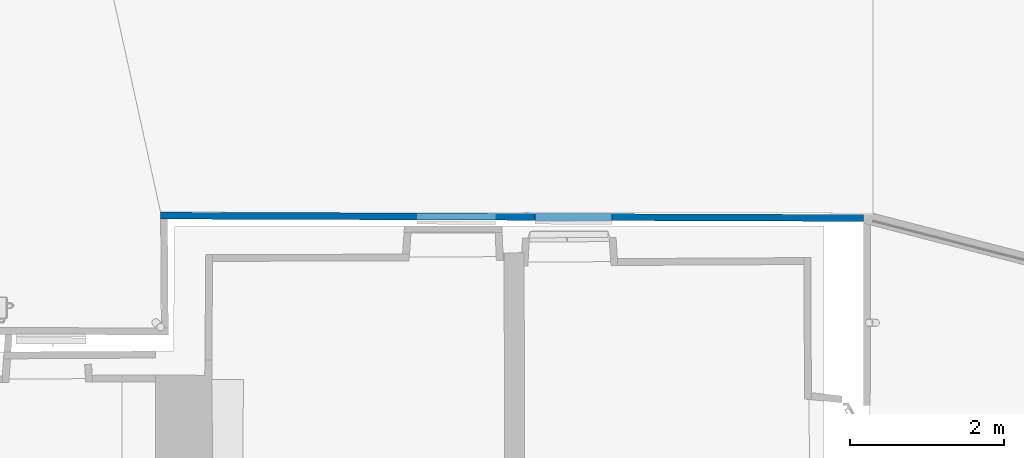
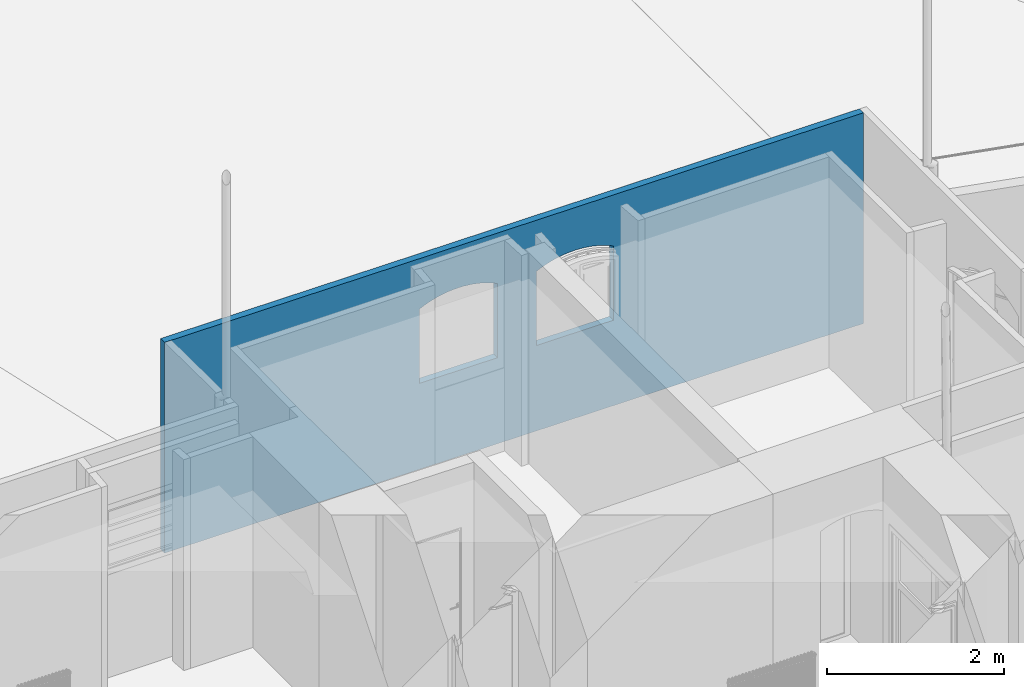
# One storey, part 30 of 133: 1 wall, 2 openings.
"""IFC2X3 building model written with IfcOpenShell, lengths in centimetres."""

from ifc_helpers import new_model, entity, si_unit, converted_unit, point, direction, frame, frame_2d, origin, origin_with_axes, place, context, subcontext, project, spatial, polyline, circle_curve, trimmed, segment, composite_curve, outline, extrude, clip, bounded_halfspace, shape, material, layer, layer_set, layer_usage, type_object, element, save


model = new_model("IFC2X3")

# Units and contexts
model_context = context("Model", 3, precision=0.0001, world=origin(), true_north=direction((0.225632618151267, 0.974212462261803, 0.0)))
body_context = subcontext(model_context, "Body", "Model", "MODEL_VIEW")
footprint_context = subcontext(model_context, "FootPrint", "Model", "MODEL_VIEW")
profile_context = subcontext(model_context, "Profile", "Model", "MODEL_VIEW")
ifc_project = project(units=[si_unit("LENGTHUNIT", "METRE", prefix="CENTI"), si_unit("AREAUNIT", "SQUARE_METRE", prefix="CENTI"), si_unit("VOLUMEUNIT", "CUBIC_METRE", prefix="CENTI"), converted_unit("PLANEANGLEUNIT", "DEGREE", entity("IfcRatioMeasure", 0.0174532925), si_unit("PLANEANGLEUNIT", "RADIAN"), dimensions=[0, 0, 0, 0, 0, 0, 0])], contexts=[model_context])

# Site, building, storey
site_placement = place(None, origin_with_axes())
site = spatial("IfcSite", under=ifc_project, at=site_placement, Name="Default Site", CompositionType="ELEMENT")
building_placement = place(site_placement, origin_with_axes())
building = spatial("IfcBuilding", under=site, at=building_placement, Name="Default Building", CompositionType="ELEMENT")
storey_placement = place(building_placement, frame((0.0, 0.0, -291.400371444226), z_axis=(0.0, 0.0, 1.0), x_axis=(1.0, 0.0, 0.0)))
storey = spatial("IfcBuildingStorey", under=building, at=storey_placement, Name="Rez-de-Jardin", CompositionType="ELEMENT", Elevation=-291.400371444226)

# Wall, openings
ifc_material = material(Name="<aucun>")
ifc_layer = layer(ifc_material, 9.0)
ifc_layer_set = layer_set([ifc_layer], Name="default")
ifc_layer_usage = layer_usage(ifc_layer_set, "AXIS2", "POSITIVE", -4.5)
wall_type = type_object("IfcWallType", Name="default 90", PredefinedType="NOTDEFINED", material=ifc_layer_set)
wall_placement = place(storey_placement, frame((1149.51249450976, 760.690026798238, -1.94511073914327e-11), z_axis=(0.0, 0.0, 1.0), x_axis=(-0.9999942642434, 0.0033869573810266, 0.0)))
wall = element("IfcWallStandardCase", 1, at=wall_placement, inside=storey, type_object=wall_type, material=ifc_layer_usage, Name="Enveloppe 362187", context=body_context, shape_type="Clipping", body=[
    clip(clip(extrude(outline(polyline([(912.322968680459, -4.50000000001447), (912.226282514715, 4.49999999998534), (-0.024867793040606, 4.50000000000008), (-1.77635683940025e-13, -4.50000000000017), (912.322968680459, -4.50000000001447)])), frame((0.0, 0.0, 8.88178419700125e-14), z_axis=(0.0, 0.0, 1.0), x_axis=(1.0, 0.0, 0.0)), (0.0, 0.0, 1.0), 291.413221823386), bounded_halfspace(frame((-1.77635683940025e-13, -4.50000000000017, 157.900371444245), z_axis=(0.0, 0.0, 1.0), x_axis=(-0.00276307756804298, 0.999996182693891, 0.0)), True, frame((-1.77635683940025e-13, -4.50000000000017, 157.900371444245), z_axis=(0.0, 0.0, 1.0), x_axis=(1.0, 0.0, 0.0)), polyline([(-0.0182982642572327, 6.62239620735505), (0.1000000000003, 6.62149437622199), (0.100000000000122, 8.88178419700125e-14), (0.0, 0.0), (-0.0182982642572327, 6.62239620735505)]))), bounded_halfspace(frame((0.1000000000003, 4.4999999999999, 157.900371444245), z_axis=(0.0, 0.0, 1.0), x_axis=(-9.48954456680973e-14, -1.0, 0.0)), True, frame((0.1000000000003, 4.4999999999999, 157.900371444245), z_axis=(0.0, 0.0, 1.0), x_axis=(1.0, 0.0, 0.0)), polyline([(-0.11829826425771, -2.37760379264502), (-0.124867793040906, 2.66453525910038e-13), (0.0, -8.88178419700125e-14), (-1.77635683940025e-13, -2.37850562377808), (-0.11829826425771, -2.37760379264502)]))),
])
opening_1_placement = place(wall_placement, frame((326.105893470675, -5.11590769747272e-12, 118.194039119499), z_axis=(0.0, 0.0, 1.0), x_axis=(1.0, -1.5855372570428e-14, 0.0)))
cartesian_point_1 = entity("IfcCartesianPoint", [0.0, 0.0, 102.580862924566])
cartesian_point_2 = entity("IfcCartesianPoint", [100.412164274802, -8.88178419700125e-14, 102.580862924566])
cartesian_point_3 = entity("IfcCartesianPoint", [100.412164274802, 4.4999999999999])
element("IfcOpeningElement", 2, at=opening_1_placement, cuts=wall, Name="4294966548_12", ObjectType="Opening", shapes=[
    shape(body_context, "Body", "SweptSolid", [extrude(outline(composite_curve([segment(polyline([(-1.77635683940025e-13, 102.580862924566), (-1.77635683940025e-13, 0.0), (100.412164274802, 0.0), (100.412164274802, 102.580862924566)]), True, "CONTINUOUS"), segment(trimmed(circle_curve(frame_2d((50.2060821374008, -0.342585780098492), x_axis=(1.0, 0.0)), 114.515880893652), [point((100.412164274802, 102.580862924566))], [point((-1.77635683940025e-13, 102.580862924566))], True, "CARTESIAN"), True, "CONTINUOUS")], self_intersect=False)), frame((0.0, 14.5, 0.0), z_axis=(0.0, -1.0, 0.0), x_axis=(1.0, 0.0, 0.0)), (0.0, 0.0, 1.0), 29.0)]),
    shape(profile_context, "Profile", "GeometricCurveSet", [entity("IfcGeometricCurveSet", [entity("IfcCompositeCurve", [entity("IfcCompositeCurveSegment", "CONTINUOUS", True, entity("IfcPolyline", [cartesian_point_1, entity("IfcCartesianPoint", [0.0, 0.0, 0.0]), entity("IfcCartesianPoint", [100.412164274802, -8.88178419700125e-14, 0.0]), cartesian_point_2])), entity("IfcCompositeCurveSegment", "CONTINUOUS", True, entity("IfcTrimmedCurve", entity("IfcCircle", entity("IfcAxis2Placement3D", entity("IfcCartesianPoint", [50.2060821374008, 8.88178419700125e-14, -0.342585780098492]), entity("IfcDirection", [-8.84532691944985e-16, -1.0, 1.1492563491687e-14]), entity("IfcDirection", [-1.0, 8.84532691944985e-16, 0.0])), 114.515880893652), [cartesian_point_2], [cartesian_point_1], True, "CARTESIAN"))], False)])]),
    shape(footprint_context, "FootPrint", "GeometricCurveSet", [entity("IfcGeometricCurveSet", [entity("IfcPolyline", [cartesian_point_3, entity("IfcCartesianPoint", [-1.77635683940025e-13, 4.49999999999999]), entity("IfcCartesianPoint", [0.0, -4.49999999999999]), entity("IfcCartesianPoint", [100.412164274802, -4.49999999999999]), cartesian_point_3])])]),
])
opening_2_placement = place(wall_placement, frame((477.467081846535, -7.61701812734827e-12, 119.000000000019), z_axis=(0.0, 0.0, 1.0), x_axis=(1.0, -1.5855372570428e-14, 0.0)))
cartesian_point_4 = entity("IfcCartesianPoint", [8.88178419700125e-14, -8.88178419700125e-14, 102.580862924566])
cartesian_point_5 = entity("IfcCartesianPoint", [102.253588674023, -8.88178419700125e-14, 102.580862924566])
cartesian_point_6 = entity("IfcCartesianPoint", [102.253588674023, 4.4999999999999])
element("IfcOpeningElement", 3, at=opening_2_placement, cuts=wall, Name="4294966546_12", ObjectType="Opening", shapes=[
    shape(body_context, "Body", "SweptSolid", [extrude(outline(composite_curve([segment(polyline([(8.88178419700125e-14, 102.580862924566), (8.88178419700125e-14, 0.0), (102.253588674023, 0.0), (102.253588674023, 102.580862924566)]), True, "CONTINUOUS"), segment(trimmed(circle_curve(frame_2d((51.1267943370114, -2.2300637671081), x_axis=(1.0, 0.0)), 116.615948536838), [point((102.253588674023, 102.580862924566))], [point((8.88178419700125e-14, 102.580862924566))], True, "CARTESIAN"), True, "CONTINUOUS")], self_intersect=False)), frame((0.0, 14.5, 0.0), z_axis=(0.0, -1.0, 0.0), x_axis=(1.0, 0.0, 0.0)), (0.0, 0.0, 1.0), 29.0)]),
    shape(profile_context, "Profile", "GeometricCurveSet", [entity("IfcGeometricCurveSet", [entity("IfcCompositeCurve", [entity("IfcCompositeCurveSegment", "CONTINUOUS", True, entity("IfcPolyline", [cartesian_point_4, entity("IfcCartesianPoint", [8.88178419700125e-14, -8.88178419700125e-14, 0.0]), entity("IfcCartesianPoint", [102.253588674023, -8.88178419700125e-14, 0.0]), cartesian_point_5])), entity("IfcCompositeCurveSegment", "CONTINUOUS", True, entity("IfcTrimmedCurve", entity("IfcCircle", entity("IfcAxis2Placement3D", entity("IfcCartesianPoint", [51.1267943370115, 0.0, -2.2300637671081]), entity("IfcDirection", [0.0, -1.0, 7.52373380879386e-15]), entity("IfcDirection", [-1.0, 0.0, 0.0])), 116.615948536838), [cartesian_point_5], [cartesian_point_4], True, "CARTESIAN"))], False)])]),
    shape(footprint_context, "FootPrint", "GeometricCurveSet", [entity("IfcGeometricCurveSet", [entity("IfcPolyline", [cartesian_point_6, entity("IfcCartesianPoint", [8.88178419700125e-14, 4.4999999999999]), entity("IfcCartesianPoint", [1.77635683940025e-13, -4.50000000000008]), entity("IfcCartesianPoint", [102.253588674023, -4.50000000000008]), cartesian_point_6])])]),
])

save(model, "model.ifc")
